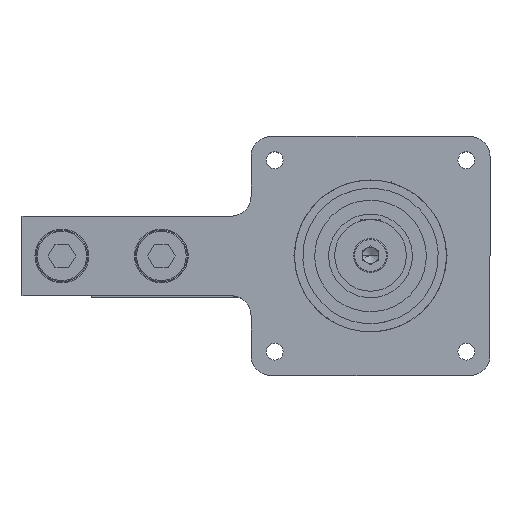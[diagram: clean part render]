
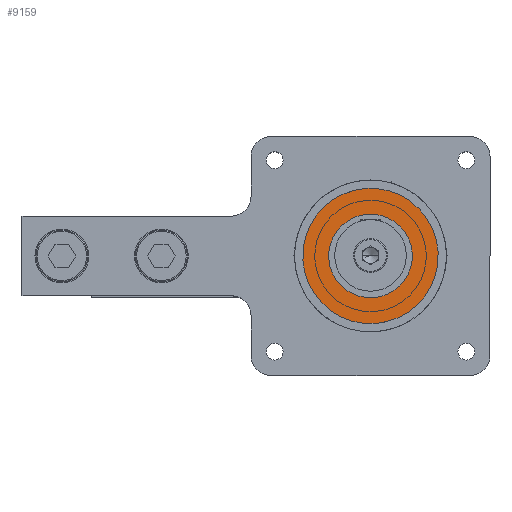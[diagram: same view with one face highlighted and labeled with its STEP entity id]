
A CAD part, top view. The second image highlights one B-rep face of the part: STEP entity #9159.
In plain terms, the highlighted planar face has unit normal (0, 0, 1).
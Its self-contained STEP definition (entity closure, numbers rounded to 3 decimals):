
#670 = CIRCLE ( 'NONE', #6394, 10.5 ) ;
#768 = CARTESIAN_POINT ( 'NONE',  ( -17., 0., 5.5 ) ) ;
#841 = AXIS2_PLACEMENT_3D ( 'NONE', #4949, #7106, #9297 ) ;
#928 = ORIENTED_EDGE ( 'NONE', *, *, #7425, .F. ) ;
#1063 = CARTESIAN_POINT ( 'NONE',  ( -17., 0., 5.5 ) ) ;
#1149 = AXIS2_PLACEMENT_3D ( 'NONE', #4265, #12088, #13217 ) ;
#2445 = CIRCLE ( 'NONE', #841, 17. ) ;
#3074 = ORIENTED_EDGE ( 'NONE', *, *, #5971, .T. ) ;
#3196 = VERTEX_POINT ( 'NONE', #1063 ) ;
#3405 = VERTEX_POINT ( 'NONE', #12898 ) ;
#4242 = DIRECTION ( 'NONE',  ( 0., 0., 1. ) ) ;
#4265 = CARTESIAN_POINT ( 'NONE',  ( 0., 0., 5.5 ) ) ;
#4290 = EDGE_LOOP ( 'NONE', ( #3074, #13048 ) ) ;
#4400 = CIRCLE ( 'NONE', #1149, 17. ) ;
#4663 = CARTESIAN_POINT ( 'NONE',  ( 0., 0., 5.5 ) ) ;
#4693 = ORIENTED_EDGE ( 'NONE', *, *, #5909, .F. ) ;
#4949 = CARTESIAN_POINT ( 'NONE',  ( 0., 0., 5.5 ) ) ;
#5234 = DIRECTION ( 'NONE',  ( -1., 0., 0. ) ) ;
#5363 = VERTEX_POINT ( 'NONE', #13395 ) ;
#5571 = CIRCLE ( 'NONE', #9034, 10.5 ) ;
#5627 = DIRECTION ( 'NONE',  ( 1., 0., 0. ) ) ;
#5909 = EDGE_CURVE ( 'NONE', #5363, #3405, #670, .T. ) ;
#5971 = EDGE_CURVE ( 'NONE', #14267, #3196, #2445, .T. ) ;
#6394 = AXIS2_PLACEMENT_3D ( 'NONE', #4663, #4242, #5627 ) ;
#6469 = CARTESIAN_POINT ( 'NONE',  ( 17., 0., 5.5 ) ) ;
#6895 = DIRECTION ( 'NONE',  ( 0., 0., 1. ) ) ;
#7106 = DIRECTION ( 'NONE',  ( 0., 0., 1. ) ) ;
#7425 = EDGE_CURVE ( 'NONE', #3405, #5363, #5571, .T. ) ;
#7868 = EDGE_CURVE ( 'NONE', #3196, #14267, #4400, .T. ) ;
#8424 = FACE_OUTER_BOUND ( 'NONE', #4290, .T. ) ;
#8456 = AXIS2_PLACEMENT_3D ( 'NONE', #768, #13046, #5234 ) ;
#9034 = AXIS2_PLACEMENT_3D ( 'NONE', #11443, #6895, #10337 ) ;
#9159 = ADVANCED_FACE ( 'NONE', ( #13456, #8424 ), #13187, .F. ) ;
#9297 = DIRECTION ( 'NONE',  ( 1., 0., 0. ) ) ;
#10337 = DIRECTION ( 'NONE',  ( 1., 0., 0. ) ) ;
#10409 = EDGE_LOOP ( 'NONE', ( #4693, #928 ) ) ;
#11443 = CARTESIAN_POINT ( 'NONE',  ( 0., 0., 5.5 ) ) ;
#12088 = DIRECTION ( 'NONE',  ( 0., 0., 1. ) ) ;
#12898 = CARTESIAN_POINT ( 'NONE',  ( -10.5, 0., 5.5 ) ) ;
#13046 = DIRECTION ( 'NONE',  ( 0., 0., -1. ) ) ;
#13048 = ORIENTED_EDGE ( 'NONE', *, *, #7868, .T. ) ;
#13187 = PLANE ( 'NONE',  #8456 ) ;
#13217 = DIRECTION ( 'NONE',  ( 1., 0., 0. ) ) ;
#13395 = CARTESIAN_POINT ( 'NONE',  ( 10.5, 0., 5.5 ) ) ;
#13456 = FACE_BOUND ( 'NONE', #10409, .T. ) ;
#14267 = VERTEX_POINT ( 'NONE', #6469 ) ;
